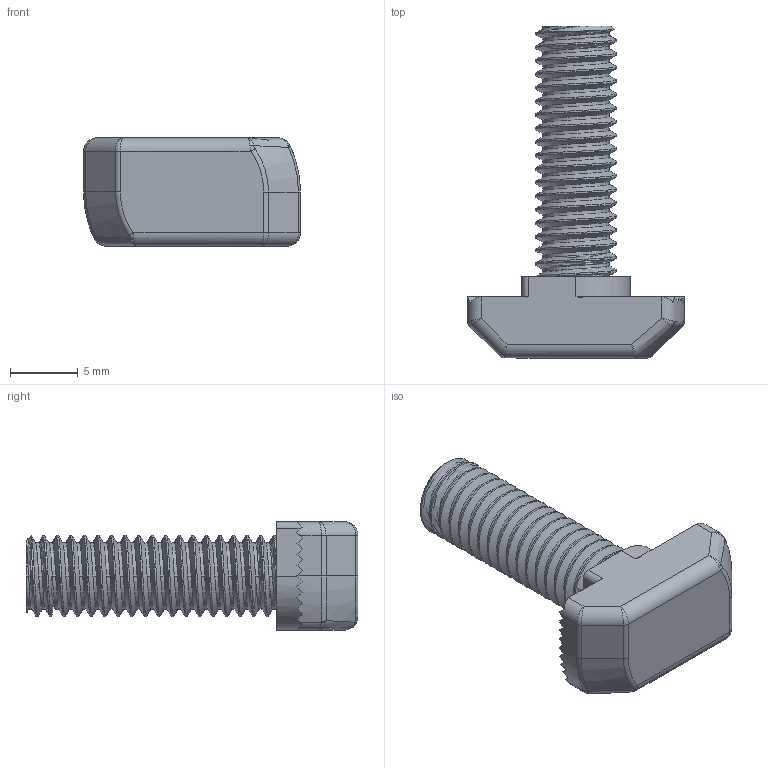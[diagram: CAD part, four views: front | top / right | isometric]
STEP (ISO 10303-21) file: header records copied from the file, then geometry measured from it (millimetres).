
FILE_DESCRIPTION(/* description */ ('STEP AP214'),/* implementation_level */ '2;1');
FILE_NAME(/* name */ 'Drop In Bolt - T-Slot - 30 Series - M6 - 20mm.step',/* time_stamp */ '2025-09-05T06:39:54+03:00',/* author */ (''),/* organization */ (''),/* preprocessor_version */ 'ST-DEVELOPER v20.1',/* originating_system */ 'Autodesk Translation Framework v14.10.0.0',/* authorisation */ '');
FILE_SCHEMA (('AUTOMOTIVE_DESIGN { 1 0 10303 214 3 1 1 }'));
Length unit declared in the file: millimetre
Products named in the file (1): Drop In Bolt - T-Slot - 30 Series - M6 - 20mm
Bounding box: 16 x 24.5 x 8 mm (x, y, z)
Volume: 998.9 mm3; surface area: 989.1 mm2
Topology: 1 solids, 1 shells, 138 faces, 376 edges, 234 vertices
Faces by surface type: cylinder 57, plane 57, bspline 17, torus 4, cone 3
Full cylindrical faces by diameter (mm): 4.917 x18, 6 x17
Entity records: 8509 total; most frequent: CARTESIAN_POINT 5290, ORIENTED_EDGE 736, DIRECTION 590, EDGE_CURVE 368, VERTEX_POINT 234, AXIS2_PLACEMENT_3D 211, LINE 168, VECTOR 168
